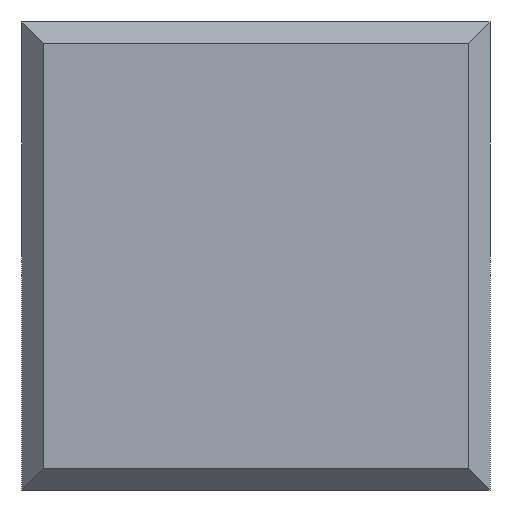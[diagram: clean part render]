
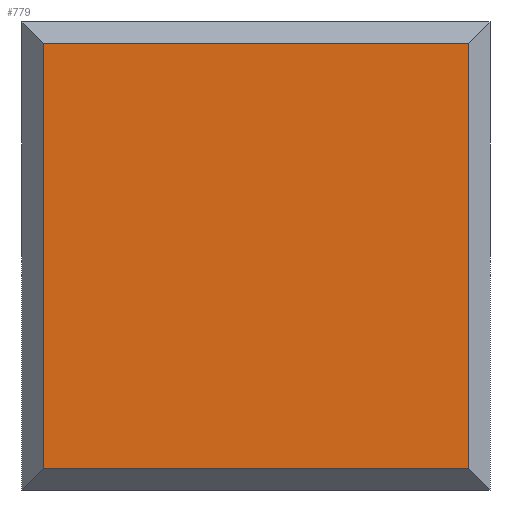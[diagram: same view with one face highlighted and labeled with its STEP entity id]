
A CAD part, front view. The second image highlights one B-rep face of the part: STEP entity #779.
In plain terms, the highlighted planar face has unit normal (0, -1, 0).
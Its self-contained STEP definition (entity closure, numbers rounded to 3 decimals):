
#17 = LINE ( 'NONE', #195, #382 ) ;
#36 = DIRECTION ( 'NONE',  ( -1., 0., 0. ) ) ;
#39 = CARTESIAN_POINT ( 'NONE',  ( 10., -8., 10. ) ) ;
#40 = DIRECTION ( 'NONE',  ( 0., -1., 0. ) ) ;
#42 = CARTESIAN_POINT ( 'NONE',  ( 10., -8., 10. ) ) ;
#43 = EDGE_CURVE ( 'NONE', #495, #920, #814, .T. ) ;
#97 = DIRECTION ( 'NONE',  ( 0., 0., -1. ) ) ;
#105 = CARTESIAN_POINT ( 'NONE',  ( 10., -8., 11. ) ) ;
#117 = CARTESIAN_POINT ( 'NONE',  ( -10., -8., 10. ) ) ;
#118 = PLANE ( 'NONE',  #171 ) ;
#171 = AXIS2_PLACEMENT_3D ( 'NONE', #42, #40, #36 ) ;
#195 = CARTESIAN_POINT ( 'NONE',  ( 11., -8., 10. ) ) ;
#196 = DIRECTION ( 'NONE',  ( 1., 0., 0. ) ) ;
#202 = VERTEX_POINT ( 'NONE', #117 ) ;
#236 = VERTEX_POINT ( 'NONE', #39 ) ;
#257 = VECTOR ( 'NONE', #287, 1000. ) ;
#287 = DIRECTION ( 'NONE',  ( -1., 0., 0. ) ) ;
#314 = EDGE_CURVE ( 'NONE', #202, #920, #316, .T. ) ;
#316 = LINE ( 'NONE', #725, #654 ) ;
#382 = VECTOR ( 'NONE', #196, 1000. ) ;
#393 = CARTESIAN_POINT ( 'NONE',  ( -10., -8., -10. ) ) ;
#395 = CARTESIAN_POINT ( 'NONE',  ( 11., -8., -10. ) ) ;
#425 = ORIENTED_EDGE ( 'NONE', *, *, #728, .F. ) ;
#495 = VERTEX_POINT ( 'NONE', #652 ) ;
#557 = LINE ( 'NONE', #105, #719 ) ;
#638 = ORIENTED_EDGE ( 'NONE', *, *, #43, .F. ) ;
#652 = CARTESIAN_POINT ( 'NONE',  ( 10., -8., -10. ) ) ;
#654 = VECTOR ( 'NONE', #896, 1000. ) ;
#675 = FACE_OUTER_BOUND ( 'NONE', #815, .T. ) ;
#719 = VECTOR ( 'NONE', #97, 1000. ) ;
#725 = CARTESIAN_POINT ( 'NONE',  ( -10., -8., 10. ) ) ;
#728 = EDGE_CURVE ( 'NONE', #202, #236, #17, .T. ) ;
#770 = EDGE_CURVE ( 'NONE', #236, #495, #557, .T. ) ;
#779 = ADVANCED_FACE ( 'NONE', ( #675 ), #118, .T. ) ;
#814 = LINE ( 'NONE', #395, #257 ) ;
#815 = EDGE_LOOP ( 'NONE', ( #425, #898, #638, #853 ) ) ;
#853 = ORIENTED_EDGE ( 'NONE', *, *, #770, .F. ) ;
#896 = DIRECTION ( 'NONE',  ( 0., 0., -1. ) ) ;
#898 = ORIENTED_EDGE ( 'NONE', *, *, #314, .T. ) ;
#920 = VERTEX_POINT ( 'NONE', #393 ) ;
